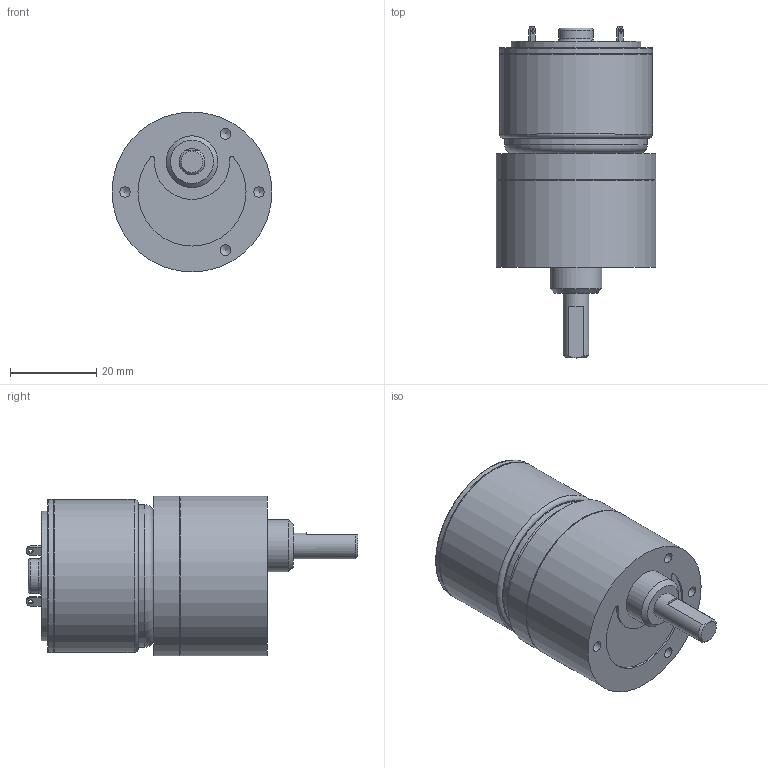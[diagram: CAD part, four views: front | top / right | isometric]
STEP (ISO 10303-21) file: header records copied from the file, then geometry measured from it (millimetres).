
FILE_DESCRIPTION((''),'2;1');
FILE_NAME('C:\Documents and Settings\SSEGAWA\デスクトップ\TP-3526E-HM-3.STP','2013-07-09T15:11:10',('SSEGAWA'),(''),'Autodesk Inventor 2010','Autodesk Inventor 2010','');
FILE_SCHEMA(('CONFIG_CONTROL_DESIGN'));
Length unit declared in the file: millimetre
Products named in the file (3): tp_3526e_hm_3; hm_3; tp_3526e
Assembly tree (2 placements, depth 2):
  tp_3526e_hm_3
    hm_3
    tp_3526e
Bounding box: 37 x 76.8 x 37 mm (x, y, z)
Volume: 54073.2 mm3; surface area: 10860.5 mm2
Topology: 2 solids, 2 shells, 76 faces, 162 edges, 106 vertices
Faces by surface type: plane 28, cylinder 22, bspline 18, torus 5, cone 3
Full cylindrical faces by diameter (mm): 1.1 x1, 2 x1, 2.4 x1, 5 x1, 6 x1, 8 x1, 10 x1, 12 x1, 30 x1, 33 x1, 35 x1, 35.4 x2, 36.6 x1, 37 x2
Entity records: 2088 total; most frequent: CARTESIAN_POINT 659, DIRECTION 297, ORIENTED_EDGE 202, EDGE_LOOP 137, AXIS2_PLACEMENT_3D 135, EDGE_CURVE 101, VERTEX_POINT 86, FACE_OUTER_BOUND 76
